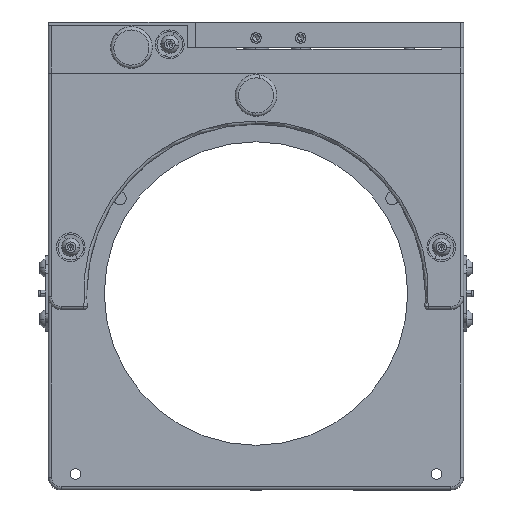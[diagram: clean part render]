
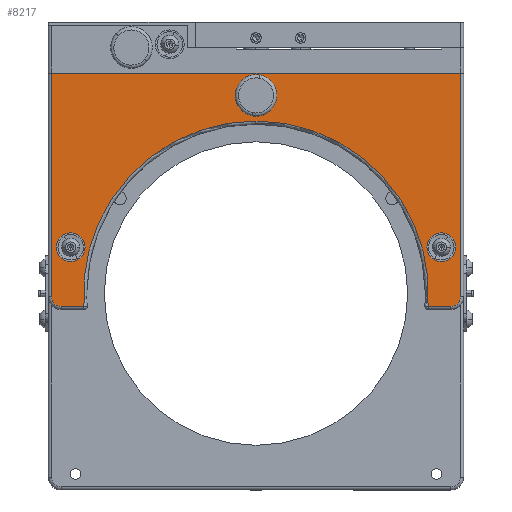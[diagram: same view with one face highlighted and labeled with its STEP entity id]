
A CAD part, front view. The second image highlights one B-rep face of the part: STEP entity #8217.
In plain terms, the highlighted planar face has unit normal (0, -1, 0).
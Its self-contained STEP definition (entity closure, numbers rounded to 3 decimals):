
#260 = LINE ( 'NONE', #10776, #8163 ) ;
#455 = EDGE_CURVE ( 'NONE', #20112, #1881, #6558, .T. ) ;
#460 = DIRECTION ( 'NONE',  ( 0., 0., -1. ) ) ;
#529 = LINE ( 'NONE', #4251, #15342 ) ;
#951 = DIRECTION ( 'NONE',  ( 0., -1., 0. ) ) ;
#962 = DIRECTION ( 'NONE',  ( 0., -1., 0. ) ) ;
#1261 = CARTESIAN_POINT ( 'NONE',  ( 56.922, -13.405, -64.893 ) ) ;
#1430 = CIRCLE ( 'NONE', #21730, 3. ) ;
#1849 = CARTESIAN_POINT ( 'NONE',  ( -1.078, -13.405, -17.393 ) ) ;
#1881 = VERTEX_POINT ( 'NONE', #23672 ) ;
#1920 = EDGE_CURVE ( 'NONE', #7662, #22222, #16748, .T. ) ;
#2338 = VERTEX_POINT ( 'NONE', #21703 ) ;
#2730 = CARTESIAN_POINT ( 'NONE',  ( 59.922, -13.405, -80.393 ) ) ;
#3169 = FACE_OUTER_BOUND ( 'NONE', #15698, .T. ) ;
#3226 = DIRECTION ( 'NONE',  ( 0., -1., 0. ) ) ;
#3489 = DIRECTION ( 'NONE',  ( 0., 1., 0. ) ) ;
#3491 = FACE_BOUND ( 'NONE', #14941, .T. ) ;
#3803 = DIRECTION ( 'NONE',  ( -1., 0., 0. ) ) ;
#3806 = CIRCLE ( 'NONE', #24696, 4.5 ) ;
#3910 = CIRCLE ( 'NONE', #15561, 4.5 ) ;
#4067 = VERTEX_POINT ( 'NONE', #17151 ) ;
#4144 = CARTESIAN_POINT ( 'NONE',  ( -1.078, -13.405, -84.393 ) ) ;
#4188 = AXIS2_PLACEMENT_3D ( 'NONE', #19569, #23542, #15814 ) ;
#4251 = CARTESIAN_POINT ( 'NONE',  ( -65.078, -13.405, -80.393 ) ) ;
#4622 = ORIENTED_EDGE ( 'NONE', *, *, #25041, .T. ) ;
#5120 = CARTESIAN_POINT ( 'NONE',  ( -59.078, -13.405, -64.893 ) ) ;
#5626 = DIRECTION ( 'NONE',  ( 0., -1., 0. ) ) ;
#5971 = ORIENTED_EDGE ( 'NONE', *, *, #11157, .T. ) ;
#6031 = CARTESIAN_POINT ( 'NONE',  ( -65.078, -13.405, -80.393 ) ) ;
#6143 = VERTEX_POINT ( 'NONE', #14968 ) ;
#6237 = EDGE_CURVE ( 'NONE', #13875, #10780, #3910, .T. ) ;
#6512 = DIRECTION ( 'NONE',  ( 1., 0., 0. ) ) ;
#6514 = DIRECTION ( 'NONE',  ( 0., 0., 1. ) ) ;
#6558 = CIRCLE ( 'NONE', #20118, 3. ) ;
#6729 = ORIENTED_EDGE ( 'NONE', *, *, #21829, .T. ) ;
#6737 = CARTESIAN_POINT ( 'NONE',  ( 63.922, -13.405, -10.393 ) ) ;
#6865 = FACE_BOUND ( 'NONE', #23859, .T. ) ;
#6901 = DIRECTION ( 'NONE',  ( -1., 0., 0. ) ) ;
#7046 = EDGE_CURVE ( 'NONE', #7419, #21215, #260, .T. ) ;
#7419 = VERTEX_POINT ( 'NONE', #21967 ) ;
#7436 = EDGE_CURVE ( 'NONE', #22222, #20112, #529, .T. ) ;
#7662 = VERTEX_POINT ( 'NONE', #19459 ) ;
#7798 = EDGE_CURVE ( 'NONE', #4067, #23998, #17154, .T. ) ;
#8027 = EDGE_CURVE ( 'NONE', #23998, #4067, #22943, .T. ) ;
#8087 = DIRECTION ( 'NONE',  ( 0., -1., 0. ) ) ;
#8163 = VECTOR ( 'NONE', #18499, 1000. ) ;
#8217 = ADVANCED_FACE ( 'NONE', ( #6865, #3491, #8964, #3169 ), #11672, .T. ) ;
#8460 = CIRCLE ( 'NONE', #24632, 54. ) ;
#8843 = DIRECTION ( 'NONE',  ( -1., 0., 0. ) ) ;
#8961 = AXIS2_PLACEMENT_3D ( 'NONE', #13812, #21489, #19610 ) ;
#8964 = FACE_BOUND ( 'NONE', #20517, .T. ) ;
#9523 = DIRECTION ( 'NONE',  ( 0., 0., 1. ) ) ;
#9908 = CARTESIAN_POINT ( 'NONE',  ( 61.422, -13.405, -64.893 ) ) ;
#10400 = VECTOR ( 'NONE', #16179, 1000. ) ;
#10776 = CARTESIAN_POINT ( 'NONE',  ( 59.922, -13.405, -83.393 ) ) ;
#10780 = VERTEX_POINT ( 'NONE', #21892 ) ;
#11021 = CARTESIAN_POINT ( 'NONE',  ( 59.922, -13.405, -83.393 ) ) ;
#11157 = EDGE_CURVE ( 'NONE', #1881, #18754, #21254, .T. ) ;
#11220 = VECTOR ( 'NONE', #14265, 1000. ) ;
#11672 = PLANE ( 'NONE',  #24088 ) ;
#12125 = ORIENTED_EDGE ( 'NONE', *, *, #24344, .F. ) ;
#12463 = ORIENTED_EDGE ( 'NONE', *, *, #21257, .T. ) ;
#12516 = ORIENTED_EDGE ( 'NONE', *, *, #7798, .F. ) ;
#12700 = DIRECTION ( 'NONE',  ( 0., -1., 0. ) ) ;
#12938 = CARTESIAN_POINT ( 'NONE',  ( 3.422, -13.405, -17.393 ) ) ;
#13495 = ORIENTED_EDGE ( 'NONE', *, *, #18394, .F. ) ;
#13812 = CARTESIAN_POINT ( 'NONE',  ( -1.078, -13.405, -17.393 ) ) ;
#13875 = VERTEX_POINT ( 'NONE', #12938 ) ;
#14041 = CARTESIAN_POINT ( 'NONE',  ( 62.922, -13.405, -10.393 ) ) ;
#14265 = DIRECTION ( 'NONE',  ( 1., 0., 0. ) ) ;
#14421 = ORIENTED_EDGE ( 'NONE', *, *, #8027, .F. ) ;
#14641 = ORIENTED_EDGE ( 'NONE', *, *, #6237, .F. ) ;
#14655 = CARTESIAN_POINT ( 'NONE',  ( 56.922, -13.405, -64.893 ) ) ;
#14824 = CARTESIAN_POINT ( 'NONE',  ( -1.078, -13.405, -79.393 ) ) ;
#14859 = LINE ( 'NONE', #14041, #24581 ) ;
#14941 = EDGE_LOOP ( 'NONE', ( #14421, #12516 ) ) ;
#14968 = CARTESIAN_POINT ( 'NONE',  ( -1.078, -13.405, -25.393 ) ) ;
#15342 = VECTOR ( 'NONE', #460, 1000. ) ;
#15357 = CARTESIAN_POINT ( 'NONE',  ( 52.422, -13.405, -64.893 ) ) ;
#15561 = AXIS2_PLACEMENT_3D ( 'NONE', #1849, #23375, #3803 ) ;
#15698 = EDGE_LOOP ( 'NONE', ( #5971, #12463, #6729, #16976, #17723, #4622, #20835, #18371, #17897 ) ) ;
#15814 = DIRECTION ( 'NONE',  ( 0., 0., 1. ) ) ;
#15954 = DIRECTION ( 'NONE',  ( 0., -1., 0. ) ) ;
#16179 = DIRECTION ( 'NONE',  ( -1., 0., 0. ) ) ;
#16748 = LINE ( 'NONE', #6737, #10400 ) ;
#16976 = ORIENTED_EDGE ( 'NONE', *, *, #7046, .T. ) ;
#17151 = CARTESIAN_POINT ( 'NONE',  ( -54.578, -13.405, -64.893 ) ) ;
#17154 = CIRCLE ( 'NONE', #20327, 4.5 ) ;
#17613 = DIRECTION ( 'NONE',  ( -1., 0., 0. ) ) ;
#17639 = EDGE_CURVE ( 'NONE', #17929, #20499, #3806, .T. ) ;
#17712 = CARTESIAN_POINT ( 'NONE',  ( -54.93, -13.405, -83.393 ) ) ;
#17723 = ORIENTED_EDGE ( 'NONE', *, *, #21058, .T. ) ;
#17749 = CARTESIAN_POINT ( 'NONE',  ( -59.078, -13.405, -64.893 ) ) ;
#17897 = ORIENTED_EDGE ( 'NONE', *, *, #455, .T. ) ;
#17929 = VERTEX_POINT ( 'NONE', #9908 ) ;
#17944 = DIRECTION ( 'NONE',  ( 0., 0., 1. ) ) ;
#18082 = ORIENTED_EDGE ( 'NONE', *, *, #17639, .F. ) ;
#18371 = ORIENTED_EDGE ( 'NONE', *, *, #7436, .T. ) ;
#18394 = EDGE_CURVE ( 'NONE', #20499, #17929, #23482, .T. ) ;
#18499 = DIRECTION ( 'NONE',  ( 1., 0., 0. ) ) ;
#18754 = VERTEX_POINT ( 'NONE', #17712 ) ;
#18886 = AXIS2_PLACEMENT_3D ( 'NONE', #5120, #3226, #24502 ) ;
#19459 = CARTESIAN_POINT ( 'NONE',  ( 62.922, -13.405, -10.393 ) ) ;
#19569 = CARTESIAN_POINT ( 'NONE',  ( -1.078, -13.405, -79.393 ) ) ;
#19610 = DIRECTION ( 'NONE',  ( -1., 0., 0. ) ) ;
#20112 = VERTEX_POINT ( 'NONE', #6031 ) ;
#20118 = AXIS2_PLACEMENT_3D ( 'NONE', #20864, #5626, #9523 ) ;
#20217 = CARTESIAN_POINT ( 'NONE',  ( -63.578, -13.405, -64.893 ) ) ;
#20327 = AXIS2_PLACEMENT_3D ( 'NONE', #17749, #15954, #6512 ) ;
#20499 = VERTEX_POINT ( 'NONE', #15357 ) ;
#20517 = EDGE_LOOP ( 'NONE', ( #13495, #18082 ) ) ;
#20684 = CIRCLE ( 'NONE', #8961, 4.5 ) ;
#20835 = ORIENTED_EDGE ( 'NONE', *, *, #1920, .T. ) ;
#20864 = CARTESIAN_POINT ( 'NONE',  ( -62.078, -13.405, -80.393 ) ) ;
#21058 = EDGE_CURVE ( 'NONE', #21215, #2338, #1430, .T. ) ;
#21215 = VERTEX_POINT ( 'NONE', #11021 ) ;
#21254 = LINE ( 'NONE', #23621, #11220 ) ;
#21257 = EDGE_CURVE ( 'NONE', #18754, #6143, #8460, .T. ) ;
#21489 = DIRECTION ( 'NONE',  ( 0., -1., 0. ) ) ;
#21703 = CARTESIAN_POINT ( 'NONE',  ( 62.922, -13.405, -80.393 ) ) ;
#21730 = AXIS2_PLACEMENT_3D ( 'NONE', #2730, #962, #6514 ) ;
#21829 = EDGE_CURVE ( 'NONE', #6143, #7419, #25055, .T. ) ;
#21892 = CARTESIAN_POINT ( 'NONE',  ( -5.578, -13.405, -17.393 ) ) ;
#21967 = CARTESIAN_POINT ( 'NONE',  ( 52.773, -13.405, -83.393 ) ) ;
#22219 = CARTESIAN_POINT ( 'NONE',  ( -65.078, -13.405, -10.393 ) ) ;
#22222 = VERTEX_POINT ( 'NONE', #22219 ) ;
#22943 = CIRCLE ( 'NONE', #18886, 4.5 ) ;
#22945 = AXIS2_PLACEMENT_3D ( 'NONE', #14655, #951, #8843 ) ;
#23375 = DIRECTION ( 'NONE',  ( 0., -1., 0. ) ) ;
#23482 = CIRCLE ( 'NONE', #22945, 4.5 ) ;
#23542 = DIRECTION ( 'NONE',  ( 0., 1., 0. ) ) ;
#23621 = CARTESIAN_POINT ( 'NONE',  ( -53.842, -13.405, -83.393 ) ) ;
#23672 = CARTESIAN_POINT ( 'NONE',  ( -62.078, -13.405, -83.393 ) ) ;
#23859 = EDGE_LOOP ( 'NONE', ( #14641, #12125 ) ) ;
#23998 = VERTEX_POINT ( 'NONE', #20217 ) ;
#24088 = AXIS2_PLACEMENT_3D ( 'NONE', #4144, #8087, #17613 ) ;
#24344 = EDGE_CURVE ( 'NONE', #10780, #13875, #20684, .T. ) ;
#24502 = DIRECTION ( 'NONE',  ( 1., 0., 0. ) ) ;
#24581 = VECTOR ( 'NONE', #17944, 1000. ) ;
#24632 = AXIS2_PLACEMENT_3D ( 'NONE', #14824, #3489, #25010 ) ;
#24696 = AXIS2_PLACEMENT_3D ( 'NONE', #1261, #12700, #6901 ) ;
#25010 = DIRECTION ( 'NONE',  ( 0., 0., 1. ) ) ;
#25041 = EDGE_CURVE ( 'NONE', #2338, #7662, #14859, .T. ) ;
#25055 = CIRCLE ( 'NONE', #4188, 54. ) ;
